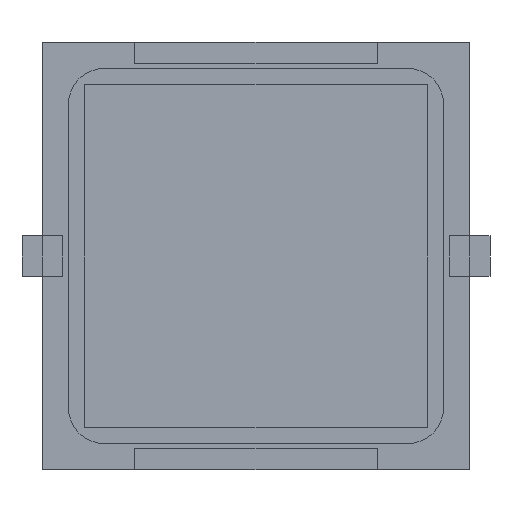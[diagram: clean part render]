
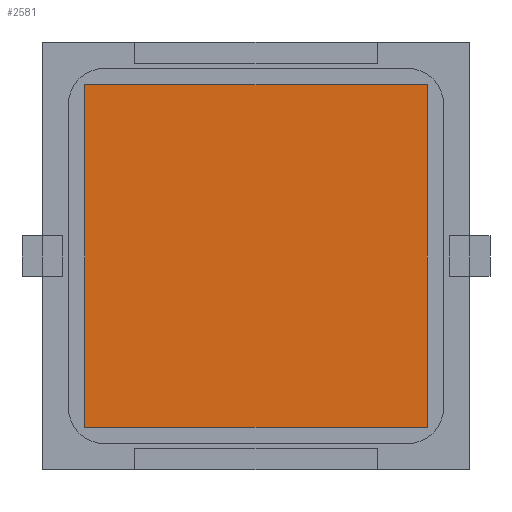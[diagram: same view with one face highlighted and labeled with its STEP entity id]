
A CAD part, front view. The second image highlights one B-rep face of the part: STEP entity #2581.
In plain terms, the highlighted planar face has unit normal (0, -1, 0).
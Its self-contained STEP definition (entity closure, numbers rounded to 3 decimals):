
#48 = ORIENTED_EDGE ( 'NONE', *, *, #693, .F. ) ;
#182 = CARTESIAN_POINT ( 'NONE',  ( 8.5, -0.1, -8.5 ) ) ;
#235 = EDGE_CURVE ( 'NONE', #2045, #3360, #4222, .T. ) ;
#693 = EDGE_CURVE ( 'NONE', #1130, #3886, #3392, .T. ) ;
#733 = ORIENTED_EDGE ( 'NONE', *, *, #833, .F. ) ;
#826 = FACE_OUTER_BOUND ( 'NONE', #3026, .T. ) ;
#833 = EDGE_CURVE ( 'NONE', #3360, #1130, #1877, .T. ) ;
#937 = CARTESIAN_POINT ( 'NONE',  ( -8.5, -0.1, 8.5 ) ) ;
#995 = DIRECTION ( 'NONE',  ( 0., 1., 0. ) ) ;
#1130 = VERTEX_POINT ( 'NONE', #4717 ) ;
#1185 = EDGE_CURVE ( 'NONE', #3886, #2045, #3032, .T. ) ;
#1271 = ORIENTED_EDGE ( 'NONE', *, *, #235, .F. ) ;
#1510 = CARTESIAN_POINT ( 'NONE',  ( -8.5, -0.1, -8.5 ) ) ;
#1522 = CARTESIAN_POINT ( 'NONE',  ( 8.5, -0.1, -8.5 ) ) ;
#1750 = VECTOR ( 'NONE', #4518, 1000. ) ;
#1847 = CARTESIAN_POINT ( 'NONE',  ( -8.5, -0.1, 8.5 ) ) ;
#1877 = LINE ( 'NONE', #1510, #2462 ) ;
#2045 = VERTEX_POINT ( 'NONE', #2119 ) ;
#2119 = CARTESIAN_POINT ( 'NONE',  ( 8.5, -0.1, 8.5 ) ) ;
#2462 = VECTOR ( 'NONE', #4508, 1000. ) ;
#2581 = ADVANCED_FACE ( 'NONE', ( #826 ), #2885, .F. ) ;
#2885 = PLANE ( 'NONE',  #4715 ) ;
#3026 = EDGE_LOOP ( 'NONE', ( #48, #733, #1271, #3252 ) ) ;
#3032 = LINE ( 'NONE', #1847, #4765 ) ;
#3049 = CARTESIAN_POINT ( 'NONE',  ( -8.5, -0.1, -8.5 ) ) ;
#3252 = ORIENTED_EDGE ( 'NONE', *, *, #1185, .F. ) ;
#3279 = DIRECTION ( 'NONE',  ( 0., 0., 1. ) ) ;
#3360 = VERTEX_POINT ( 'NONE', #182 ) ;
#3392 = LINE ( 'NONE', #3049, #4104 ) ;
#3886 = VERTEX_POINT ( 'NONE', #937 ) ;
#4104 = VECTOR ( 'NONE', #4515, 1000. ) ;
#4222 = LINE ( 'NONE', #1522, #1750 ) ;
#4364 = CARTESIAN_POINT ( 'NONE',  ( -8.5, -0.1, 8.5 ) ) ;
#4508 = DIRECTION ( 'NONE',  ( -1., 0., 0. ) ) ;
#4515 = DIRECTION ( 'NONE',  ( 0., 0., 1. ) ) ;
#4518 = DIRECTION ( 'NONE',  ( 0., 0., -1. ) ) ;
#4715 = AXIS2_PLACEMENT_3D ( 'NONE', #4364, #995, #3279 ) ;
#4717 = CARTESIAN_POINT ( 'NONE',  ( -8.5, -0.1, -8.5 ) ) ;
#4765 = VECTOR ( 'NONE', #4827, 1000. ) ;
#4827 = DIRECTION ( 'NONE',  ( 1., 0., 0. ) ) ;
